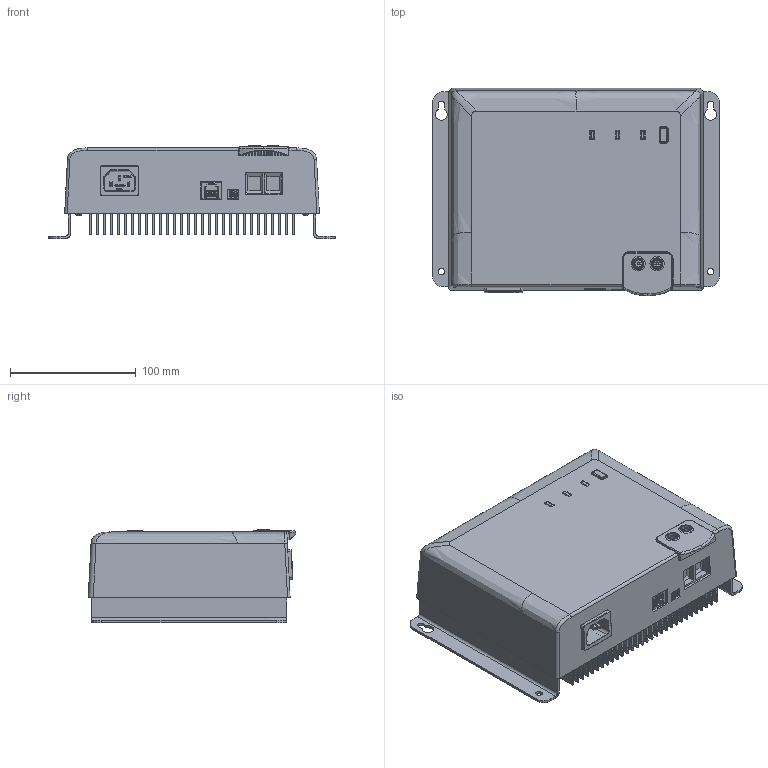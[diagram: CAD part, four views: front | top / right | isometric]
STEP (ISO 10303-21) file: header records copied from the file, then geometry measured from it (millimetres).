
FILE_DESCRIPTION((''),'2;1');
FILE_NAME('AC000_ASM','2024-03-04T15:04:52',('Admin'),(''),'CREO PARAMETRIC BY PTC INC, 2019471','CREO PARAMETRIC BY PTC INC, 2019471','');
FILE_SCHEMA(('CONFIG_CONTROL_DESIGN'));
Products named in the file (37): BREP_3_1_1_1; BREP_4_1_1_1; WK_ASM_1_ASM_1_1_ASM; BREP_9_1_1_1; D1_1_1_1; D_1_1_1_1; BREP_5_1_1_1; BREP_8_1_1_1; XSP_ASM_1_ASM_1_1_ASM; BREP_10_1_1_1; D3_1_1_1_1; D3_1_2_1_1; D3_1_3_1_1; D3_1_4_1_1; D3_1_5_1_1; D3_1_6_1_1; D3_1_7_1_1; D3_1_8_1_1; D3_1_9_1_1; D3_1_10_1_1; D3_1_11_1_1; D3_1_12_1_1; D3_1_13_1_1; D3_1_14_1_1; D3_1_ASM_1_1_ASM; D4_1_1_1; PCB_ASM_1_ASM_1_1_ASM; BREP_11_1_1_1; BREP_12_1_1_1; BREP_18_1_1_1; BREP_19_1_1_1; 107450__SHINER24400001_1_1_1; 1A_1_1_1; SRP_1_1_1; DOCUMENT_A_ASM_1_ASM_1_1_ASM; 528-00571-00-ST2-5--6_2_1; AC000_ASM
Assembly tree (41 placements, depth 5):
  AC000_ASM
    DOCUMENT_A_ASM_1_ASM_1_1_ASM
      WK_ASM_1_ASM_1_1_ASM
        BREP_3_1_1_1
        BREP_4_1_1_1
      XSP_ASM_1_ASM_1_1_ASM
        BREP_9_1_1_1
        D1_1_1_1
        D_1_1_1_1  x3
        BREP_5_1_1_1
        BREP_8_1_1_1
      PCB_ASM_1_ASM_1_1_ASM
        BREP_10_1_1_1
        D3_1_ASM_1_1_ASM
          D3_1_1_1_1
          D3_1_2_1_1
          D3_1_3_1_1
          D3_1_4_1_1
          D3_1_5_1_1
          D3_1_6_1_1
          D3_1_7_1_1
          D3_1_8_1_1
          D3_1_9_1_1
          D3_1_10_1_1
          D3_1_11_1_1
          D3_1_12_1_1
          D3_1_13_1_1
          D3_1_14_1_1
        D4_1_1_1
      BREP_11_1_1_1
      BREP_12_1_1_1
      BREP_18_1_1_1
      BREP_19_1_1_1
      107450__SHINER24400001_1_1_1
      1A_1_1_1
      SRP_1_1_1
    528-00571-00-ST2-5--6_2_1  x4
Bounding box: 227.65 x 165.01 x 74 mm (x, y, z)
Volume: 715278.7 mm3; surface area: 529673.8 mm2
Topology: 34 solids, 34 shells, 3894 faces, 11127 edges, 7384 vertices
Faces by surface type: plane 1993, extrusion 759, cylinder 699, cone 223, bspline 134, torus 70, sphere 12, revolution 4
Entity records: 144549 total; most frequent: CARTESIAN_POINT 48022, ORIENTED_EDGE 21622, DIRECTION 16970, EDGE_CURVE 10811, VECTOR 7274, VERTEX_POINT 7187, LINE 6515, AXIS2_PLACEMENT_3D 4846
